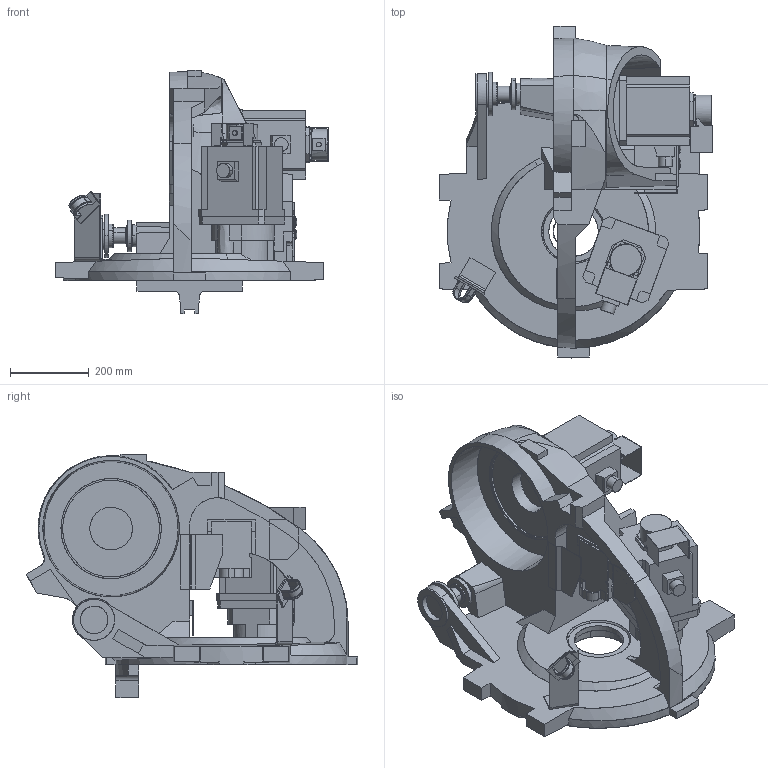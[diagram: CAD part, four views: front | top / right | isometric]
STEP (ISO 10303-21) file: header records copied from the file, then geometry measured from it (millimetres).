
FILE_DESCRIPTION(('CATIA V5 STEP Exchange'),'2;1');
FILE_NAME('Z:\ROBOT\CATIA06\products\SRA\SRA240L-01\Assy\FTP\catia\SRA240L-01_J1.stp','2023-04-03T10:18:29+00:00',('none'),('none'),'CATIA Version 5-6 Release 2016 SP3','CATIA V5 STEP AP203','none');
FILE_SCHEMA(('CONFIG_CONTROL_DESIGN'));
Length unit declared in the file: millimetre
Products named in the file (1): SRA240L-01_J1
Bounding box: 692.6 x 840.28 x 616 mm (x, y, z)
Surface area: 2873396.3 mm2 (no closed solid volume)
Topology: 0 solids, 662 shells, 662 faces, 3482 edges, 3472 vertices
Faces by surface type: plane 440, bspline 222
Entity records: 41784 total; most frequent: CARTESIAN_POINT 22466, ORIENTED_EDGE 3472, B_SPLINE_CURVE_WITH_KNOTS 3472, EDGE_CURVE 3472, VERTEX_POINT 3472, DIRECTION 880, EDGE_LOOP 708, OPEN_SHELL 662
